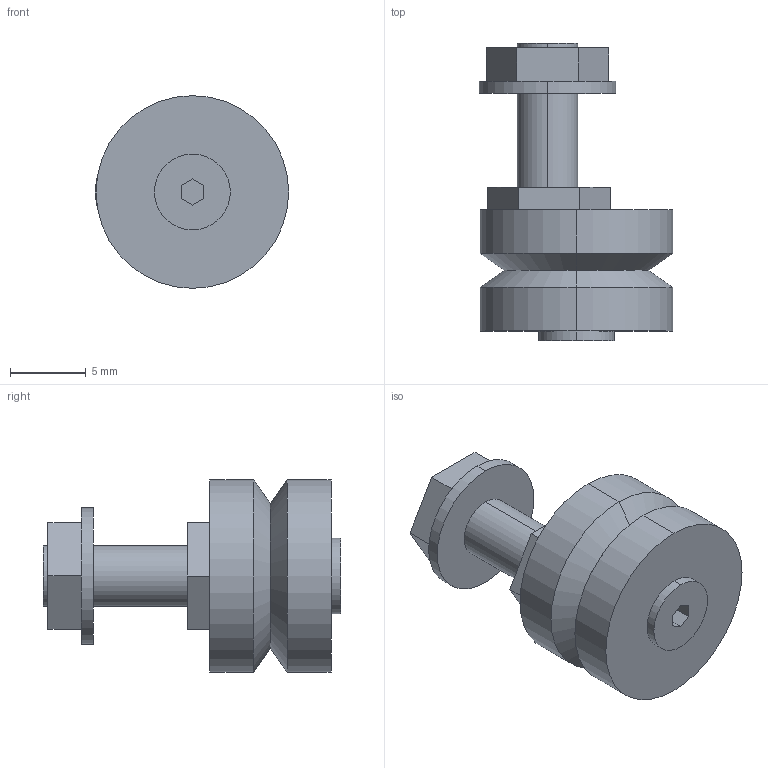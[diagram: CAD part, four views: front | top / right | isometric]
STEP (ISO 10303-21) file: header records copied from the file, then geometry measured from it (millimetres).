
FILE_DESCRIPTION(('STEP AP203'),'1');
FILE_NAME('rlj_13_de_ns.stp','2020-10-20T10:59:37',('TraceParts'),('TraceParts S.A.'),'Spatial InterOp 3D',' ',' ');
FILE_SCHEMA(('CONFIG_CONTROL_DESIGN'));
Length unit declared in the file: millimetre
Products named in the file (1): 1
Bounding box: 12.75 x 19.6 x 12.7 mm (x, y, z)
Volume: 1245.1 mm3; surface area: 935 mm2
Topology: 1 solids, 1 shells, 43 faces, 96 edges, 62 vertices
Faces by surface type: plane 27, cylinder 12, cone 4
Entity records: 1232 total; most frequent: DIRECTION 210, CARTESIAN_POINT 202, ORIENTED_EDGE 192, EDGE_CURVE 96, AXIS2_PLACEMENT_3D 70, LINE 70, VECTOR 70, VERTEX_POINT 62
